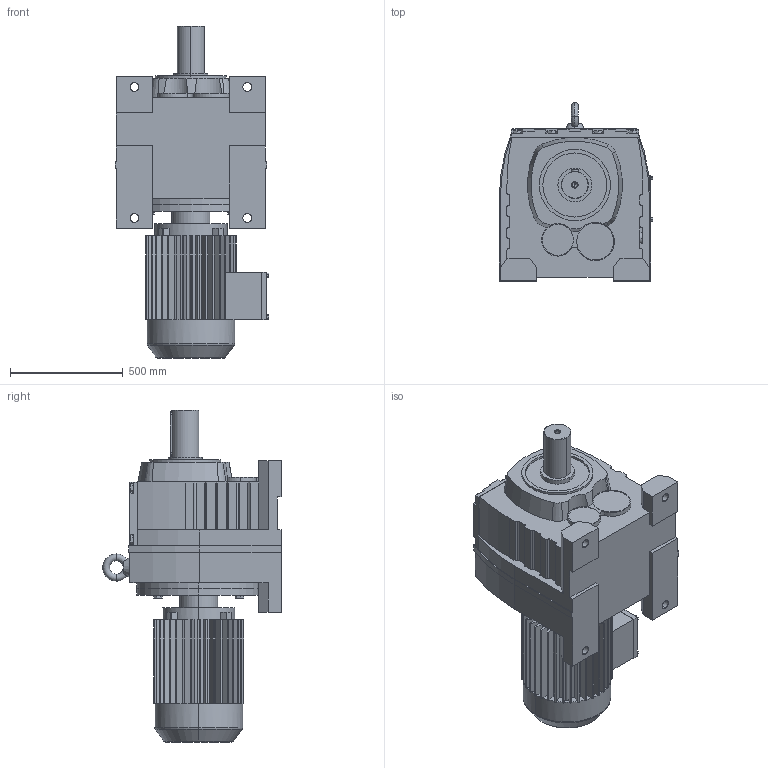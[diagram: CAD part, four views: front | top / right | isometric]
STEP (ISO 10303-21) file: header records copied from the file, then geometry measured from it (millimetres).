
FILE_DESCRIPTION(('Open CASCADE Model'),'2;1');
FILE_NAME('Open CASCADE Shape Model','2021-06-23T16:56:15',('Author'),( 'Open CASCADE'),'Open CASCADE STEP processor 6.3','Open CASCADE 6.3' ,'Unknown');
FILE_SCHEMA(('AUTOMOTIVE_DESIGN_CC2 { 1 2 10303 214 -1 1 5 4 }'));
Length unit declared in the file: millimetre
Products named in the file (3): 1_R167-Y225S; R37‵167_167.step; 萇儂_550_Y225S.step
Assembly tree (2 placements, depth 2):
  1_R167-Y225S
    R37‵167_167.step
    萇儂_550_Y225S.step
Bounding box: 680 x 790 x 1470 mm (x, y, z)
Volume: 284681696.5 mm3; surface area: 5131218.1 mm2
Topology: 2 solids, 2 shells, 735 faces, 1950 edges, 1261 vertices
Faces by surface type: plane 520, cylinder 185, cone 20, torus 10
Entity records: 51254 total; most frequent: CARTESIAN_POINT 14044, DIRECTION 6488, ORIENTED_EDGE 3896, PCURVE 3896, DEFINITIONAL_REPRESENTATION 3896, LINE 3635, VECTOR 3635, EDGE_CURVE 1948
